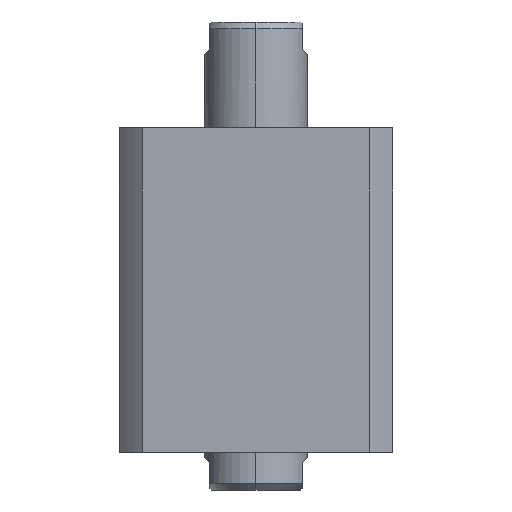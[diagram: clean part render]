
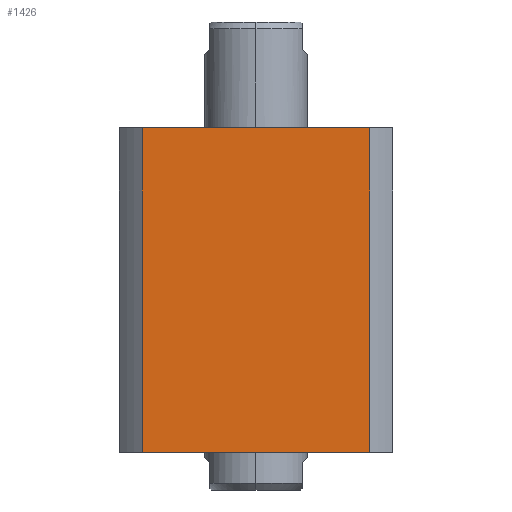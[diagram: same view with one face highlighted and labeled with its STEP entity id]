
A CAD part, left-side view. The second image highlights one B-rep face of the part: STEP entity #1426.
In plain terms, the highlighted planar face has unit normal (-1, 0, 0).
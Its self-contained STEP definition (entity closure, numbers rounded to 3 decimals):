
#240 = DIRECTION ( 'NONE',  ( 0., -1., 0. ) ) ;
#317 = FACE_OUTER_BOUND ( 'NONE', #1489, .T. ) ;
#919 = CARTESIAN_POINT ( 'NONE',  ( -40., 33.226, 47.5 ) ) ;
#1426 = ADVANCED_FACE ( 'NONE', ( #317 ), #7126, .F. ) ;
#1489 = EDGE_LOOP ( 'NONE', ( #9305, #8744, #4384, #3497 ) ) ;
#1821 = DIRECTION ( 'NONE',  ( 1., 0., 0. ) ) ;
#2411 = VERTEX_POINT ( 'NONE', #6558 ) ;
#2528 = CARTESIAN_POINT ( 'NONE',  ( -40., 33.226, 47.5 ) ) ;
#2675 = VECTOR ( 'NONE', #6825, 1000. ) ;
#2851 = LINE ( 'NONE', #8608, #6628 ) ;
#3076 = EDGE_CURVE ( 'NONE', #8983, #2411, #7057, .T. ) ;
#3121 = LINE ( 'NONE', #3152, #3698 ) ;
#3152 = CARTESIAN_POINT ( 'NONE',  ( -40., -33.226, 47.5 ) ) ;
#3497 = ORIENTED_EDGE ( 'NONE', *, *, #6916, .T. ) ;
#3698 = VECTOR ( 'NONE', #3886, 1000. ) ;
#3886 = DIRECTION ( 'NONE',  ( 0., 0., -1. ) ) ;
#4384 = ORIENTED_EDGE ( 'NONE', *, *, #3076, .F. ) ;
#4515 = CARTESIAN_POINT ( 'NONE',  ( -40., 33.226, -47.5 ) ) ;
#4528 = LINE ( 'NONE', #919, #7351 ) ;
#5062 = CARTESIAN_POINT ( 'NONE',  ( -40., 33.226, 47.5 ) ) ;
#6558 = CARTESIAN_POINT ( 'NONE',  ( -40., -33.226, 47.5 ) ) ;
#6628 = VECTOR ( 'NONE', #240, 1000. ) ;
#6691 = AXIS2_PLACEMENT_3D ( 'NONE', #2528, #1821, #9430 ) ;
#6825 = DIRECTION ( 'NONE',  ( 0., -1., 0. ) ) ;
#6916 = EDGE_CURVE ( 'NONE', #8983, #9682, #4528, .T. ) ;
#7057 = LINE ( 'NONE', #8933, #2675 ) ;
#7126 = PLANE ( 'NONE',  #6691 ) ;
#7351 = VECTOR ( 'NONE', #8596, 1000. ) ;
#7620 = EDGE_CURVE ( 'NONE', #9682, #8080, #2851, .T. ) ;
#8080 = VERTEX_POINT ( 'NONE', #8778 ) ;
#8596 = DIRECTION ( 'NONE',  ( 0., 0., -1. ) ) ;
#8608 = CARTESIAN_POINT ( 'NONE',  ( -40., 33.226, -47.5 ) ) ;
#8744 = ORIENTED_EDGE ( 'NONE', *, *, #9797, .F. ) ;
#8778 = CARTESIAN_POINT ( 'NONE',  ( -40., -33.226, -47.5 ) ) ;
#8933 = CARTESIAN_POINT ( 'NONE',  ( -40., 33.226, 47.5 ) ) ;
#8983 = VERTEX_POINT ( 'NONE', #5062 ) ;
#9305 = ORIENTED_EDGE ( 'NONE', *, *, #7620, .T. ) ;
#9430 = DIRECTION ( 'NONE',  ( 0., 1., 0. ) ) ;
#9682 = VERTEX_POINT ( 'NONE', #4515 ) ;
#9797 = EDGE_CURVE ( 'NONE', #2411, #8080, #3121, .T. ) ;
